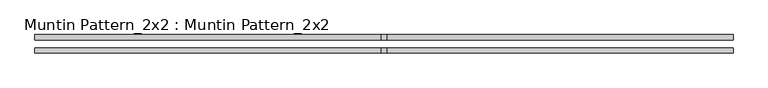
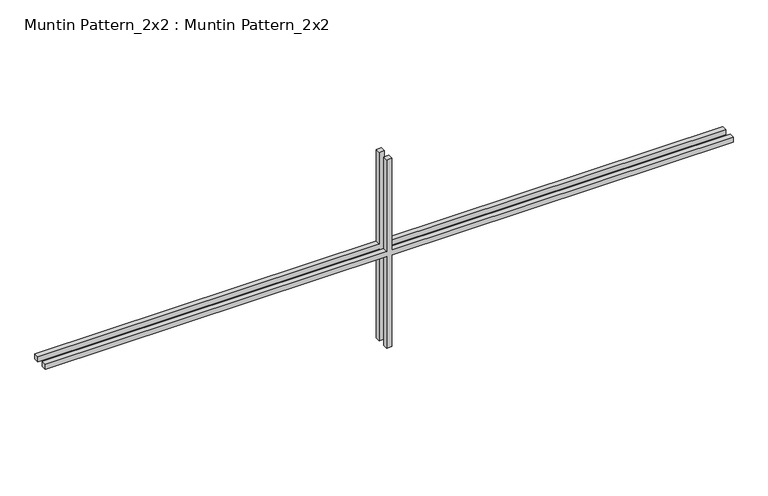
"""IFC4 building model written with IfcOpenShell, lengths in millimetres: proxy geometry, Muntin Pattern_2x2 : Muntin Pattern_2x2."""

from ifc_helpers import new_model, si_unit, frame, origin, place, context, project, spatial, polyline, outline, extrude, source, transform, mapped, element, save


def muntin_pattern_2x2_muntin_pattern_2x2_fe1a6047(model_context):
    return source(origin(), model_context, "Body", "SweptSolid", [
        extrude(outline(polyline([(249.2375, -6.35), (249.2375, -838.2), (236.5375, -838.2), (236.5375, -6.35), (0.0, -6.35), (0.0, 6.35), (236.5375, 6.35), (236.5375, 838.2), (249.2375, 838.2), (249.2375, 6.35), (485.775, 6.35), (485.775, -6.35), (249.2375, -6.35)])), frame((0.0, 9.525, 0.0), z_axis=(0.0, 1.0, 0.0), x_axis=(0.0, 0.0, 1.0)), (0.0, 0.0, 1.0), 12.7),
        extrude(outline(polyline([(249.2375, -6.35), (249.2375, -838.2), (236.5375, -838.2), (236.5375, -6.35), (0.0, -6.35), (0.0, 6.35), (236.5375, 6.35), (236.5375, 838.2), (249.2375, 838.2), (249.2375, 6.35), (485.775, 6.35), (485.775, -6.35), (249.2375, -6.35)])), frame((0.0, -22.225, 0.0), z_axis=(0.0, 1.0, 0.0), x_axis=(0.0, 0.0, 1.0)), (0.0, 0.0, 1.0), 12.7),
    ])


if __name__ == "__main__":
    model = new_model("IFC4")
    model_context = context("Model", 3, world=origin())
    ifc_project = project(units=[si_unit("LENGTHUNIT", "METRE", prefix="MILLI")], contexts=[model_context])
    site = spatial("IfcSite", under=ifc_project)
    building = spatial("IfcBuilding", under=site)
    placement = place(None, origin())
    muntin_pattern_2x2_muntin_pattern_2x2_shape = muntin_pattern_2x2_muntin_pattern_2x2_fe1a6047(model_context)
    element("IfcBuildingElementProxy", 1, Name="Muntin Pattern_2x2 : Muntin Pattern_2x2", ObjectType="Muntin Pattern_2x2 : Muntin Pattern_2x2", at=placement, inside=building, context=model_context, shape_type="MappedRepresentation", body=[
        mapped(muntin_pattern_2x2_muntin_pattern_2x2_shape, transform((0.0, 0.0, 0.0), x_axis=(1.0, 0.0, 0.0), y_axis=(0.0, 1.0, 0.0), z_axis=(0.0, 0.0, 1.0))),
    ])
    save(model, "model.ifc")
